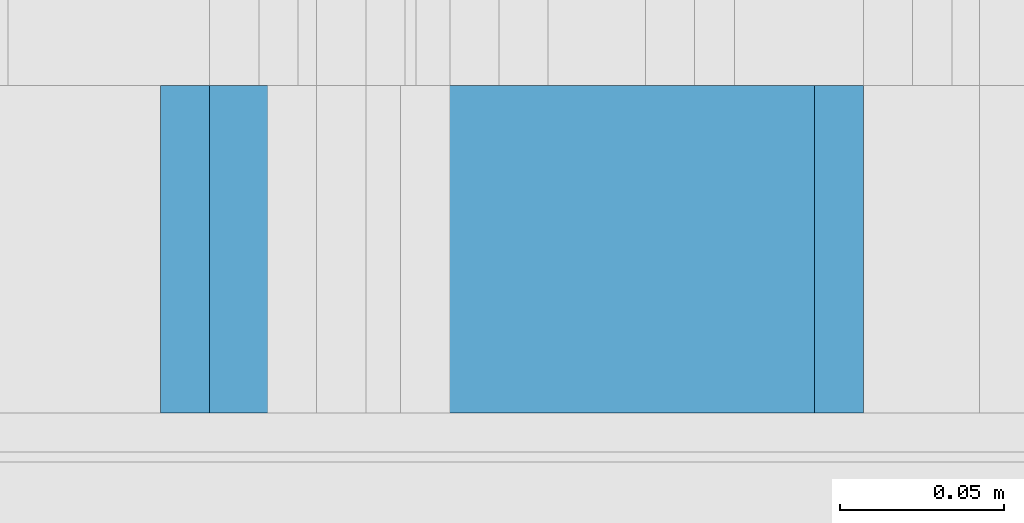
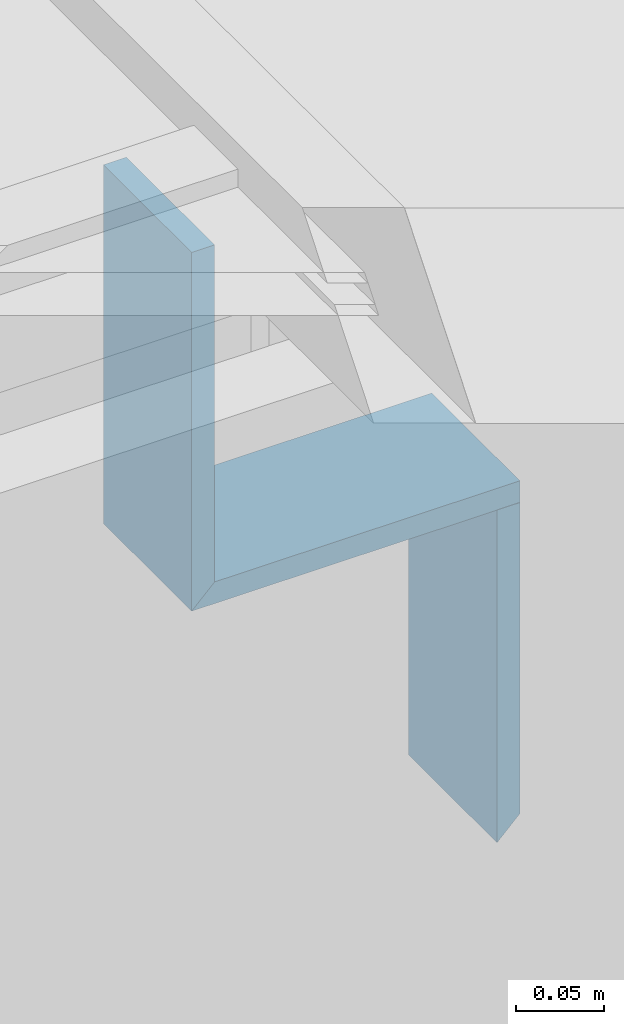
# One storey, part 218 of 583: 3 building element parts, 3 elements without a shape of their own.
"""IFC2X3 building model written with IfcOpenShell, lengths in metres."""

from ifc_helpers import new_model, entity, si_unit, converted_unit, derived_unit, money_unit, direction, frame, origin_with_axes, place, context, subcontext, project, spatial, polyline, outline, extrude, material, type_object, element, aggregate, save


model = new_model("IFC2X3")

# Units and contexts
model_context = context("Model", 3, precision=1e-05, world=origin_with_axes(), true_north=direction((0.0, 1.0)))
body_context = subcontext(model_context, "Body", "Model", "MODEL_VIEW", scale=1.0)
ifc_project = project(units=[si_unit("LENGTHUNIT", "METRE"), si_unit("AREAUNIT", "SQUARE_METRE"), si_unit("VOLUMEUNIT", "CUBIC_METRE"), si_unit("ABSORBEDDOSEUNIT", "GRAY"), si_unit("AMOUNTOFSUBSTANCEUNIT", "MOLE"), si_unit("DOSEEQUIVALENTUNIT", "SIEVERT"), si_unit("ELECTRICCAPACITANCEUNIT", "FARAD"), si_unit("ELECTRICCHARGEUNIT", "COULOMB"), si_unit("ELECTRICCONDUCTANCEUNIT", "SIEMENS"), si_unit("ELECTRICCURRENTUNIT", "AMPERE"), si_unit("ELECTRICRESISTANCEUNIT", "OHM"), si_unit("ELECTRICVOLTAGEUNIT", "VOLT"), si_unit("ENERGYUNIT", "JOULE"), si_unit("FORCEUNIT", "NEWTON"), si_unit("FREQUENCYUNIT", "HERTZ"), si_unit("ILLUMINANCEUNIT", "LUX"), si_unit("INDUCTANCEUNIT", "HENRY"), si_unit("LUMINOUSFLUXUNIT", "LUMEN"), si_unit("LUMINOUSINTENSITYUNIT", "CANDELA"), si_unit("MAGNETICFLUXDENSITYUNIT", "TESLA"), si_unit("MAGNETICFLUXUNIT", "WEBER"), si_unit("MASSUNIT", "GRAM"), converted_unit("PLANEANGLEUNIT", "degree", entity("IfcReal", 0.0174532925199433), si_unit("PLANEANGLEUNIT", "RADIAN"), dimensions=[0, 0, 0, 0, 0, 0, 0]), si_unit("POWERUNIT", "WATT"), si_unit("PRESSUREUNIT", "PASCAL"), si_unit("RADIOACTIVITYUNIT", "BECQUEREL"), si_unit("SOLIDANGLEUNIT", "STERADIAN"), si_unit("THERMODYNAMICTEMPERATUREUNIT", "KELVIN"), si_unit("TIMEUNIT", "SECOND"), derived_unit("ACCELERATIONUNIT", [(si_unit("LENGTHUNIT", "METRE"), 1), (si_unit("TIMEUNIT", "SECOND"), -2)]), derived_unit("ANGULARVELOCITYUNIT", [(converted_unit("PLANEANGLEUNIT", "degree", entity("IfcReal", 0.0174532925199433), si_unit("PLANEANGLEUNIT", "RADIAN"), dimensions=[0, 0, 0, 0, 0, 0, 0]), 1), (si_unit("TIMEUNIT", "SECOND"), -1)]), derived_unit("CURVATUREUNIT", [(converted_unit("PLANEANGLEUNIT", "degree", entity("IfcReal", 0.0174532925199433), si_unit("PLANEANGLEUNIT", "RADIAN"), dimensions=[0, 0, 0, 0, 0, 0, 0]), 1), (si_unit("LENGTHUNIT", "METRE"), -1)]), derived_unit("DYNAMICVISCOSITYUNIT", [(si_unit("PRESSUREUNIT", "PASCAL"), 1), (si_unit("TIMEUNIT", "SECOND"), 1)]), derived_unit("HEATFLUXDENSITYUNIT", [(si_unit("POWERUNIT", "WATT"), 1), (si_unit("LENGTHUNIT", "METRE"), -2)]), derived_unit("HEATINGVALUEUNIT", [(si_unit("ENERGYUNIT", "JOULE"), 1), (si_unit("MASSUNIT", "GRAM"), -1)]), derived_unit("INTEGERCOUNTRATEUNIT", [(si_unit("TIMEUNIT", "SECOND"), -1)]), derived_unit("IONCONCENTRATIONUNIT", [(si_unit("MASSUNIT", "GRAM"), 1), (si_unit("VOLUMEUNIT", "CUBIC_METRE"), -1)]), derived_unit("ISOTHERMALMOISTURECAPACITYUNIT", [(si_unit("VOLUMEUNIT", "CUBIC_METRE"), 1), (si_unit("MASSUNIT", "GRAM"), -1)]), derived_unit("KINEMATICVISCOSITYUNIT", [(si_unit("AREAUNIT", "SQUARE_METRE"), 1), (si_unit("TIMEUNIT", "SECOND"), -1)]), derived_unit("LINEARFORCEUNIT", [(si_unit("FORCEUNIT", "NEWTON"), 1), (si_unit("LENGTHUNIT", "METRE"), -1)]), derived_unit("LINEARMOMENTUNIT", [(si_unit("FORCEUNIT", "NEWTON"), 1), (si_unit("LENGTHUNIT", "METRE"), -1)]), derived_unit("LINEARSTIFFNESSUNIT", [(si_unit("FORCEUNIT", "NEWTON"), 1), (si_unit("LENGTHUNIT", "METRE"), -1)]), derived_unit("LINEARVELOCITYUNIT", [(si_unit("LENGTHUNIT", "METRE"), 1), (si_unit("TIMEUNIT", "SECOND"), -1)]), derived_unit("LUMINOUSINTENSITYDISTRIBUTIONUNIT", [(si_unit("LUMINOUSINTENSITYUNIT", "CANDELA"), 1), (si_unit("LUMINOUSFLUXUNIT", "LUMEN"), -1)]), derived_unit("MASSDENSITYUNIT", [(si_unit("MASSUNIT", "GRAM"), 1), (si_unit("VOLUMEUNIT", "CUBIC_METRE"), -1)]), derived_unit("MASSFLOWRATEUNIT", [(si_unit("MASSUNIT", "GRAM"), 1), (si_unit("TIMEUNIT", "SECOND"), -1)]), derived_unit("MASSPERLENGTHUNIT", [(si_unit("MASSUNIT", "GRAM"), 1), (si_unit("LENGTHUNIT", "METRE"), -1)]), derived_unit("MODULUSOFELASTICITYUNIT", [(si_unit("FORCEUNIT", "NEWTON"), 1), (si_unit("AREAUNIT", "SQUARE_METRE"), -1)]), derived_unit("MODULUSOFLINEARSUBGRADEREACTIONUNIT", [(si_unit("FORCEUNIT", "NEWTON"), 1), (si_unit("LENGTHUNIT", "METRE"), -2)]), derived_unit("MODULUSOFROTATIONALSUBGRADEREACTIONUNIT", [(si_unit("FORCEUNIT", "NEWTON"), 1), (si_unit("LENGTHUNIT", "METRE"), 1)]), derived_unit("MODULUSOFSUBGRADEREACTIONUNIT", [(si_unit("FORCEUNIT", "NEWTON"), 1), (si_unit("VOLUMEUNIT", "CUBIC_METRE"), -1)]), derived_unit("MOISTUREDIFFUSIVITYUNIT", [(si_unit("VOLUMEUNIT", "CUBIC_METRE"), 1), (si_unit("TIMEUNIT", "SECOND"), -1)]), derived_unit("MOLECULARWEIGHTUNIT", [(si_unit("MASSUNIT", "GRAM"), 1), (si_unit("AMOUNTOFSUBSTANCEUNIT", "MOLE"), -1)]), derived_unit("PLANARFORCEUNIT", [(si_unit("FORCEUNIT", "NEWTON"), 1), (si_unit("LENGTHUNIT", "METRE"), -2)]), derived_unit("ROTATIONALFREQUENCYUNIT", [(si_unit("TIMEUNIT", "SECOND"), -1)]), derived_unit("ROTATIONALMASSUNIT", [(si_unit("MASSUNIT", "GRAM"), 1), (si_unit("LENGTHUNIT", "METRE"), 2)]), derived_unit("ROTATIONALSTIFFNESSUNIT", [(si_unit("FORCEUNIT", "NEWTON"), 1), (si_unit("LENGTHUNIT", "METRE"), 1), (converted_unit("PLANEANGLEUNIT", "degree", entity("IfcReal", 0.0174532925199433), si_unit("PLANEANGLEUNIT", "RADIAN"), dimensions=[0, 0, 0, 0, 0, 0, 0]), -1)]), derived_unit("SECTIONAREAINTEGRALUNIT", [(si_unit("LENGTHUNIT", "METRE"), 5)]), derived_unit("SECTIONMODULUSUNIT", [(si_unit("LENGTHUNIT", "METRE"), 3)]), derived_unit("SHEARMODULUSUNIT", [(si_unit("FORCEUNIT", "NEWTON"), 1), (si_unit("AREAUNIT", "SQUARE_METRE"), -1)]), derived_unit("SOUNDPOWERUNIT", [(si_unit("ENERGYUNIT", "JOULE"), 1), (si_unit("TIMEUNIT", "SECOND"), -1)]), derived_unit("SPECIFICHEATCAPACITYUNIT", [(si_unit("FORCEUNIT", "NEWTON"), 1), (si_unit("MASSUNIT", "GRAM"), -1), (si_unit("THERMODYNAMICTEMPERATUREUNIT", "KELVIN"), -1)]), derived_unit("TEMPERATUREGRADIENTUNIT", [(si_unit("THERMODYNAMICTEMPERATUREUNIT", "KELVIN"), 1), (si_unit("LENGTHUNIT", "METRE"), -1)]), derived_unit("THERMALADMITTANCEUNIT", [(si_unit("POWERUNIT", "WATT"), 1), (si_unit("AREAUNIT", "SQUARE_METRE"), -1), (si_unit("THERMODYNAMICTEMPERATUREUNIT", "KELVIN"), -1)]), derived_unit("THERMALCONDUCTANCEUNIT", [(si_unit("POWERUNIT", "WATT"), 1), (si_unit("LENGTHUNIT", "METRE"), -1), (si_unit("THERMODYNAMICTEMPERATUREUNIT", "KELVIN"), -1)]), derived_unit("THERMALEXPANSIONCOEFFICIENTUNIT", [(si_unit("THERMODYNAMICTEMPERATUREUNIT", "KELVIN"), -1)]), derived_unit("THERMALRESISTANCEUNIT", [(si_unit("AREAUNIT", "SQUARE_METRE"), 1), (si_unit("POWERUNIT", "WATT"), -1)]), derived_unit("THERMALTRANSMITTANCEUNIT", [(si_unit("POWERUNIT", "WATT"), 1), (si_unit("AREAUNIT", "SQUARE_METRE"), -1), (si_unit("THERMODYNAMICTEMPERATUREUNIT", "KELVIN"), -1)]), derived_unit("TORQUEUNIT", [(si_unit("FORCEUNIT", "NEWTON"), 1), (si_unit("LENGTHUNIT", "METRE"), 1)]), derived_unit("VAPORPERMEABILITYUNIT", [(si_unit("MASSUNIT", "GRAM"), 1), (si_unit("TIMEUNIT", "SECOND"), -1)]), derived_unit("VOLUMETRICFLOWRATEUNIT", [(si_unit("VOLUMEUNIT", "CUBIC_METRE"), 1), (si_unit("TIMEUNIT", "SECOND"), -1)]), derived_unit("WARPINGCONSTANTUNIT", [(si_unit("LENGTHUNIT", "METRE"), 6)]), derived_unit("WARPINGMOMENTUNIT", [(si_unit("FORCEUNIT", "NEWTON"), 1), (si_unit("LENGTHUNIT", "METRE"), 2)]), money_unit("GBP")], contexts=[model_context])

# Site, building, storey
site_placement = place(None, origin_with_axes())
site = spatial("IfcSite", under=ifc_project, at=site_placement, Name="Site", CompositionType="ELEMENT")
building_placement = place(site_placement, origin_with_axes())
building = spatial("IfcBuilding", under=site, at=building_placement, Name="Building01", CompositionType="ELEMENT")
storey_placement = place(building_placement, frame((0.0, 0.0, 20.78), z_axis=(0.0, 0.0, 1.0), x_axis=(1.0, 0.0, 0.0)))
storey = spatial("IfcBuildingStorey", under=building, at=storey_placement, Name="RL", CompositionType="ELEMENT", Elevation=20.78)

# Wall, building element part
wall_type = type_object("IfcWallType", Name="SHE_A-Walls_Type06f_ExternalWallInsulation_48+15mm", PredefinedType="NOTDEFINED")
wall_1_placement = place(storey_placement, frame((8.200326, 8.64, 5.93), z_axis=(0.0, 1.0, 0.0), x_axis=(0.0, 0.0, 1.0)))
wall_1 = element("IfcWall", 1, at=wall_1_placement, inside=storey, type_object=wall_type, Name="6F", ObjectType="SHE_A-Walls_Type06f_ExternalWallInsulation_48+15mm")
ifc_material = material(Name="A_BSUK_Walls_Timber")
building_element_part_1_placement = place(wall_1_placement, origin_with_axes())
building_element_part_1 = element("IfcBuildingElementPart", 2, at=building_element_part_1_placement, material=ifc_material, Name="2", context=body_context, shape_type="SweptSolid", body=[
    extrude(outline(polyline([(0.17, -0.063), (-0.063, -0.063), (-0.078, -0.078), (0.17, -0.078), (0.17, -0.063)])), frame((0.0, 0.0, 0.015), z_axis=(0.0, 0.0, 1.0), x_axis=(1.0, 0.0, 0.0)), (0.0, 0.0, 1.0), 0.1),
])
aggregate(wall_1, [building_element_part_1])

wall_2_placement = place(storey_placement, frame((8.4, 8.64, 5.7), z_axis=(0.0, 1.0, 0.0), x_axis=(0.0, 0.0, 1.0)))
wall_2 = element("IfcWall", 3, at=wall_2_placement, inside=storey, type_object=wall_type, Name="6F", ObjectType="SHE_A-Walls_Type06f_ExternalWallInsulation_48+15mm")
building_element_part_2_placement = place(wall_2_placement, origin_with_axes())
building_element_part_2 = element("IfcBuildingElementPart", 4, at=building_element_part_2_placement, material=ifc_material, Name="2", context=body_context, shape_type="SweptSolid", body=[
    extrude(outline(polyline([(0.152, -0.063), (-0.063, -0.063), (-0.078, -0.078), (0.152, -0.078), (0.152, -0.063)])), frame((0.0, 0.0, 0.015), z_axis=(0.0, 0.0, 1.0), x_axis=(1.0, 0.0, 0.0)), (0.0, 0.0, 1.0), 0.1),
])
aggregate(wall_2, [building_element_part_2])

wall_3_placement = place(storey_placement, frame((8.164326, 8.64, 5.93), z_axis=(0.0, 1.0, 0.0), x_axis=(1.0, 0.0, 0.0)))
wall_3 = element("IfcWall", 5, at=wall_3_placement, inside=storey, type_object=wall_type, Name="6F", ObjectType="SHE_A-Walls_Type06f_ExternalWallInsulation_48+15mm")
building_element_part_3_placement = place(wall_3_placement, origin_with_axes())
building_element_part_3 = element("IfcBuildingElementPart", 6, at=building_element_part_3_placement, material=ifc_material, Name="2", context=body_context, shape_type="SweptSolid", body=[
    extrude(outline(polyline([(0.172674, 0.078), (-0.042, 0.078), (-0.027, 0.063), (0.172674, 0.063), (0.172674, 0.078)])), frame((0.0, 0.0, 0.015), z_axis=(0.0, 0.0, 1.0), x_axis=(1.0, 0.0, 0.0)), (0.0, 0.0, 1.0), 0.1),
])
aggregate(wall_3, [building_element_part_3])

save(model, "model.ifc")
